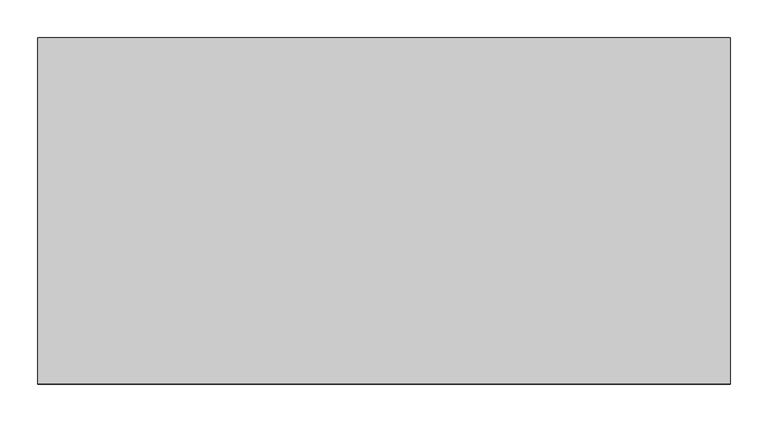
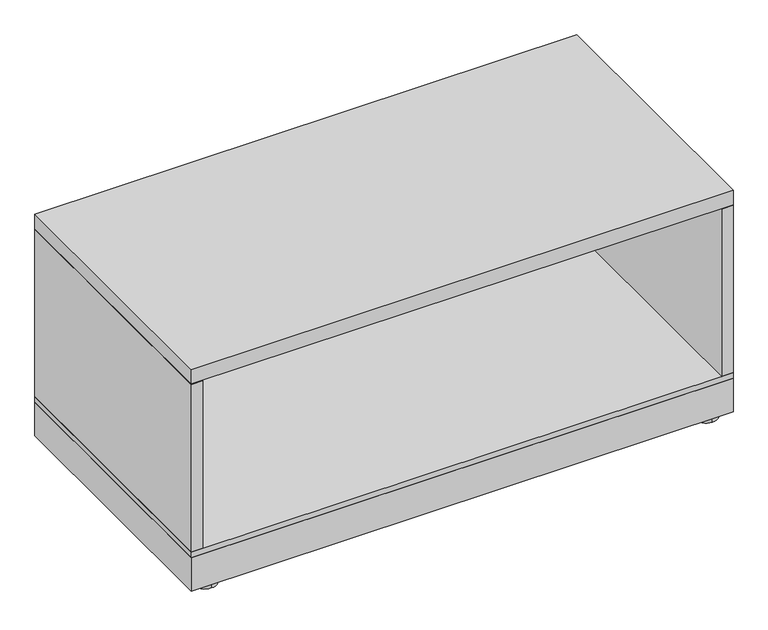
"""IFC4 building model written with IfcOpenShell, lengths in millimetres: furniture geometry, Steelcase - Universal Storage - Lateral File - 1 High - Flush Steel : Open - 18D x 36W."""

from ifc_helpers import new_model, si_unit, point, frame, frame_2d, origin, origin_with_axes, place, context, project, spatial, polyline, circle_curve, trimmed, segment, composite_curve, outline, extrude, source, transform, mapped, element, save


def furniture_cd7a5212(model_context):
    return source(origin(), model_context, "Body", "SweptSolid", [
        extrude(outline(polyline([(914.4, 457.2), (914.4, 0.0), (0.0, 0.0), (0.0, 457.2), (914.4, 457.2)])), frame((0.0, 0.0, 6.3500002), z_axis=(0.0, 0.0, 1.0), x_axis=(1.0, 0.0, 0.0)), (0.0, 0.0, 1.0), 59.6899998),
        extrude(outline(composite_curve([segment(trimmed(circle_curve(frame_2d((879.7290058, 434.8633666)), 20.32), [point((879.7290058, 414.5433666))], [point((879.7290058, 455.1833666))], False, "CARTESIAN"), True, "CONTINUOUS"), segment(trimmed(circle_curve(frame_2d((879.7290058, 434.8633666)), 20.32), [point((879.7290058, 455.1833666))], [point((879.7290058, 414.5433666))], False, "CARTESIAN"), True, "CONTINUOUS")], self_intersect=False)), origin_with_axes(), (0.0, 0.0, 1.0), 6.3500002),
        extrude(outline(composite_curve([segment(trimmed(circle_curve(frame_2d((879.7290058, 20.7491455)), 20.32), [point((879.7290058, 0.4291455))], [point((879.7290058, 41.0691455))], False, "CARTESIAN"), True, "CONTINUOUS"), segment(trimmed(circle_curve(frame_2d((879.7290058, 20.7491455)), 20.32), [point((879.7290058, 41.0691455))], [point((879.7290058, 0.4291455))], False, "CARTESIAN"), True, "CONTINUOUS")], self_intersect=False)), origin_with_axes(), (0.0, 0.0, 1.0), 6.3500002),
        extrude(outline(composite_curve([segment(trimmed(circle_curve(frame_2d((34.29, 434.8633666)), 20.32), [point((34.29, 455.1833666))], [point((34.29, 414.5433666))], False, "CARTESIAN"), True, "CONTINUOUS"), segment(trimmed(circle_curve(frame_2d((34.29, 434.8633666)), 20.32), [point((34.29, 414.5433666))], [point((34.29, 455.1833666))], False, "CARTESIAN"), True, "CONTINUOUS")], self_intersect=False)), origin_with_axes(), (0.0, 0.0, 1.0), 6.3500002),
        extrude(outline(composite_curve([segment(trimmed(circle_curve(frame_2d((34.29, 20.7491455)), 20.32), [point((34.29, 41.0691455))], [point((34.29, 0.4291455))], False, "CARTESIAN"), True, "CONTINUOUS"), segment(trimmed(circle_curve(frame_2d((34.29, 20.7491455)), 20.32), [point((34.29, 0.4291455))], [point((34.29, 41.0691455))], False, "CARTESIAN"), True, "CONTINUOUS")], self_intersect=False)), origin_with_axes(), (0.0, 0.0, 1.0), 6.3500002),
        extrude(outline(polyline([(914.4, 0.0), (0.0, 0.0), (0.0, 457.2), (914.4, 457.2), (914.4, 0.0)])), frame((0.0, 0.0, 376.3010136), z_axis=(0.0, 0.0, 1.0), x_axis=(1.0, 0.0, 0.0)), (0.0, 0.0, 1.0), 25.3999758),
        extrude(outline(polyline([(914.4, 0.0), (0.0, 0.0), (0.0, 457.2), (914.4, 457.2), (914.4, 0.0)])), frame((0.0, 0.0, 66.04), z_axis=(0.0, 0.0, 1.0), x_axis=(1.0, 0.0, 0.0)), (0.0, 0.0, 1.0), 10.16),
        extrude(outline(polyline([(0.0, 457.2), (914.4, 457.2), (914.4, 0.0), (894.8419641, 0.0), (894.8419641, 456.438), (19.558, 456.438), (19.558, 0.0), (0.0, 0.0), (0.0, 457.2)])), frame((0.0, 0.0, 76.2), z_axis=(0.0, 0.0, 1.0), x_axis=(1.0, 0.0, 0.0)), (0.0, 0.0, 1.0), 298.577),
    ])


if __name__ == "__main__":
    model = new_model("IFC4")
    model_context = context("Model", 3, world=origin())
    ifc_project = project(units=[si_unit("LENGTHUNIT", "METRE", prefix="MILLI")], contexts=[model_context])
    site = spatial("IfcSite", under=ifc_project)
    building = spatial("IfcBuilding", under=site)
    placement = place(None, origin())
    furniture_shape = furniture_cd7a5212(model_context)
    element("IfcFurniture", 1, ObjectType="Steelcase - Universal Storage - Lateral File - 1 High - Flush Steel : Open - 18D x 36W", at=placement, inside=building, context=model_context, shape_type="MappedRepresentation", body=[
        mapped(furniture_shape, transform((0.0, 0.0, 0.0), x_axis=(1.0, 0.0, 0.0), y_axis=(0.0, 1.0, 0.0), z_axis=(0.0, 0.0, 1.0))),
    ])
    save(model, "model.ifc")
